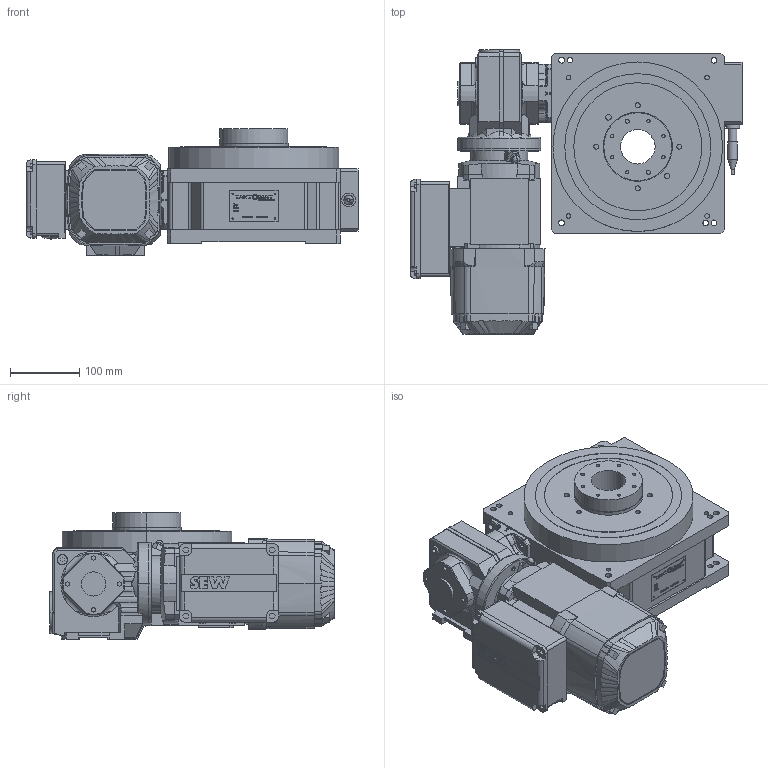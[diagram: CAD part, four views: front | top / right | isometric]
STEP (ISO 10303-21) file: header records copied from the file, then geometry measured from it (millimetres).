
FILE_DESCRIPTION(('STEP AP214'),'1');
FILE_NAME('cctmp_7E399914-75FC-47B1-A068-7D4BD5291CF2_2024_3_6_16_20_50_651..stp','2024-03-06T15:20:52',('Taktomat GmbH'),('CADClick - www.CADClick.com'),'Spatial InterOp 3D',' ','unknown authorization');
FILE_SCHEMA(('AUTOMOTIVE_DESIGN'));
Length unit declared in the file: millimetre
Products named in the file (1): 1
Bounding box: 479.51 x 410.4 x 183 mm (x, y, z)
Volume: 12390075.4 mm3; surface area: 752214.5 mm2
Topology: 4 solids, 7 shells, 2505 faces, 6653 edges, 4372 vertices
Faces by surface type: plane 1244, bspline 623, cylinder 496, cone 98, torus 26, sphere 18
Entity records: 107244 total; most frequent: CARTESIAN_POINT 28594, ORIENTED_EDGE 13302, DIRECTION 10132, EDGE_CURVE 6651, VERTEX_POINT 4372, LINE 3894, VECTOR 3894, AXIS2_PLACEMENT_3D 3119
